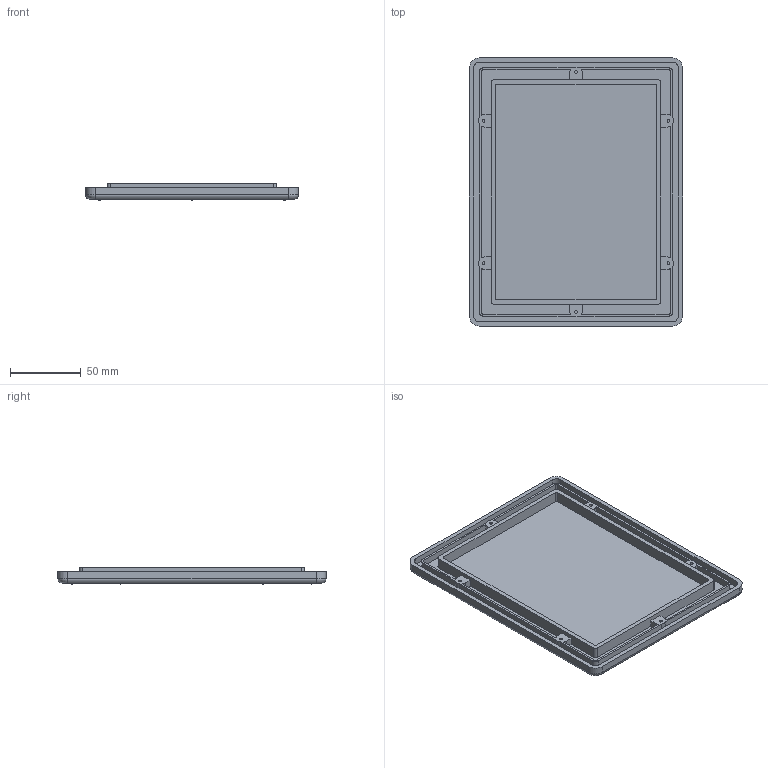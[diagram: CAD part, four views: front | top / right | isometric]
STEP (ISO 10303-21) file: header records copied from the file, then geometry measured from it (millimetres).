
FILE_DESCRIPTION (( 'STEP AP214' ), '1' );
FILE_NAME ('4.423.002.STEP', '2013-08-26T08:02:06', ( 'Krzysiek' ), ( '' ), 'SwSTEP 2.0', 'SolidWorks 2013', '' );
FILE_SCHEMA (( 'AUTOMOTIVE_DESIGN' ));
Length unit declared in the file: millimetre
Products named in the file (1): 4.423.002
Bounding box: 151 x 190 x 12 mm (x, y, z)
Volume: 101870 mm3; surface area: 80424.5 mm2
Topology: 1 solids, 1 shells, 151 faces, 418 edges, 274 vertices
Faces by surface type: plane 71, cylinder 64, sphere 12, torus 4
Entity records: 4722 total; most frequent: DIRECTION 854, CARTESIAN_POINT 808, ORIENTED_EDGE 788, EDGE_CURVE 394, AXIS2_PLACEMENT_3D 308, VERTEX_POINT 262, VECTOR 238, LINE 238
